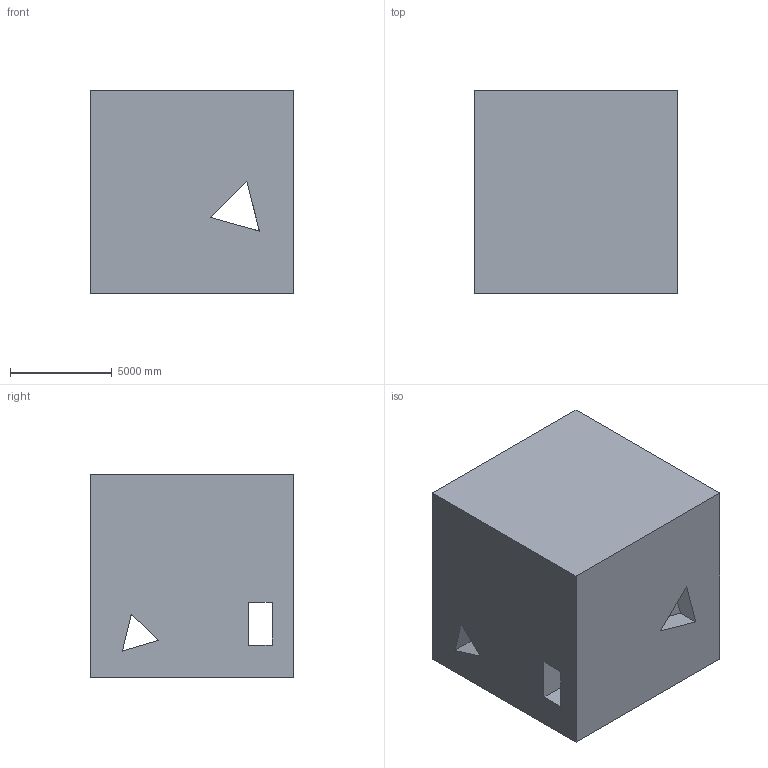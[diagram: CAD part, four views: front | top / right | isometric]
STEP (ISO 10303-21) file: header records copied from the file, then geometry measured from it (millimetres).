
FILE_DESCRIPTION (( 'STEP AP203' ), '1' );
FILE_NAME ('1465.STEP', '2022-08-18T14:38:26', ( 'user' ), ( '' ), 'SwSTEP 2.0', 'SolidWorks 2021', '' );
FILE_SCHEMA (( 'CONFIG_CONTROL_DESIGN' ));
Length unit declared in the file: centimetre
Products named in the file (1): 1465
Bounding box: 10000 x 10000 x 10000 mm (x, y, z)
Volume: 893060778745.6 mm3; surface area: 855897282 mm2
Topology: 1 solids, 1 shells, 38 faces, 126 edges, 84 vertices
Faces by surface type: plane 34, cylinder 4
Entity records: 1469 total; most frequent: CARTESIAN_POINT 264, ORIENTED_EDGE 252, DIRECTION 213, EDGE_CURVE 126, VECTOR 107, LINE 107, VERTEX_POINT 84, AXIS2_PLACEMENT_3D 53
